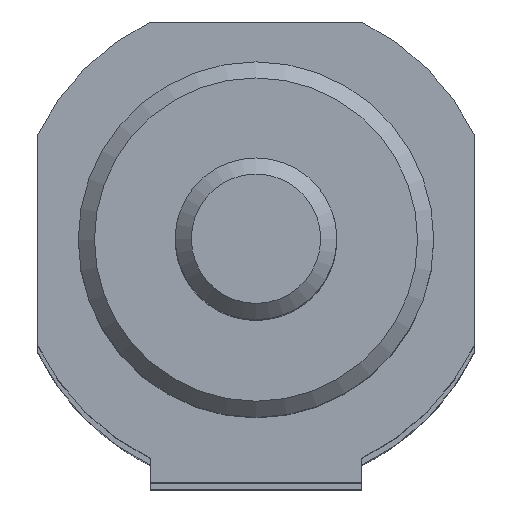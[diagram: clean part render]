
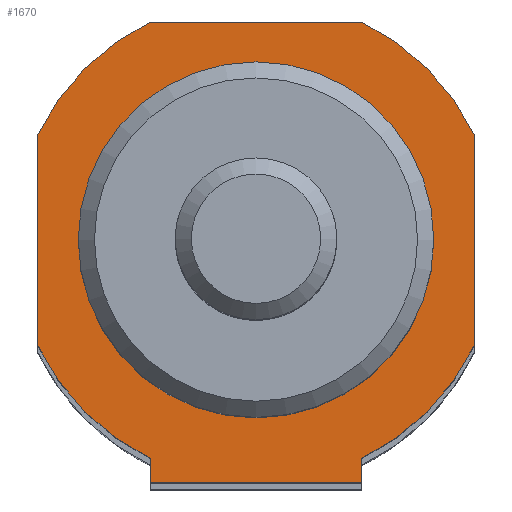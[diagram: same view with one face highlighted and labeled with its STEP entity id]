
A CAD part, top view. The second image highlights one B-rep face of the part: STEP entity #1670.
In plain terms, the highlighted planar face has unit normal (0, 0, 1).
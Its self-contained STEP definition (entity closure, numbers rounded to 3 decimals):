
#101=CARTESIAN_POINT('',(6.538,-15.,286.0));
#102=VERTEX_POINT('',#101);
#103=CARTESIAN_POINT('',(-6.538,-15.,286.0));
#104=VERTEX_POINT('',#103);
#105=CARTESIAN_POINT('',(6.538,-15.,286.0));
#106=DIRECTION('',(-1.0,0.0,0.0));
#107=VECTOR('',#106,13.077);
#108=LINE('',#105,#107);
#109=EDGE_CURVE('',#102,#104,#108,.T.);
#257=CARTESIAN_POINT('',(-6.538,-13.5,286.0));
#258=VERTEX_POINT('',#257);
#272=CARTESIAN_POINT('',(-6.538,-13.5,286.0));
#273=DIRECTION('',(0.0,-1.0,0.0));
#274=VECTOR('',#273,1.5);
#275=LINE('',#272,#274);
#276=EDGE_CURVE('',#258,#104,#275,.T.);
#288=CARTESIAN_POINT('',(6.538,-13.5,286.0));
#289=VERTEX_POINT('',#288);
#296=CARTESIAN_POINT('',(6.538,-13.5,286.0));
#297=DIRECTION('',(0.0,-1.0,0.0));
#298=VECTOR('',#297,1.5);
#299=LINE('',#296,#298);
#300=EDGE_CURVE('',#289,#102,#299,.T.);
#1398=CARTESIAN_POINT('',(11.0,0.,286.0));
#1399=VERTEX_POINT('',#1398);
#1400=CARTESIAN_POINT('',(0.0,0.0,286.0));
#1401=DIRECTION('',(0.0,0.0,-1.0));
#1402=DIRECTION('',(-1.0,0.0,0.0));
#1403=AXIS2_PLACEMENT_3D('',#1400,#1401,#1402);
#1404=CIRCLE('',#1403,11.0);
#1405=EDGE_CURVE('',#1399,#1399,#1404,.T.);
#1490=CARTESIAN_POINT('',(-6.538,13.5,286.0));
#1491=VERTEX_POINT('',#1490);
#1492=CARTESIAN_POINT('',(6.538,13.5,286.0));
#1493=VERTEX_POINT('',#1492);
#1494=CARTESIAN_POINT('',(-6.538,13.5,286.0));
#1495=DIRECTION('',(1.0,0.0,0.0));
#1496=VECTOR('',#1495,13.077);
#1497=LINE('',#1494,#1496);
#1498=EDGE_CURVE('',#1491,#1493,#1497,.T.);
#1521=CARTESIAN_POINT('',(13.5,6.538,286.0));
#1522=VERTEX_POINT('',#1521);
#1523=CARTESIAN_POINT('',(0.,0.,286.0));
#1524=DIRECTION('',(0.,0.,-1.0));
#1525=DIRECTION('',(0.9,0.436,0.));
#1526=AXIS2_PLACEMENT_3D('',#1523,#1524,#1525);
#1527=CIRCLE('',#1526,15.);
#1528=EDGE_CURVE('',#1493,#1522,#1527,.T.);
#1546=CARTESIAN_POINT('',(13.5,-6.538,286.0));
#1547=VERTEX_POINT('',#1546);
#1548=CARTESIAN_POINT('',(13.5,6.538,286.0));
#1549=DIRECTION('',(0.0,-1.0,0.0));
#1550=VECTOR('',#1549,13.077);
#1551=LINE('',#1548,#1550);
#1552=EDGE_CURVE('',#1522,#1547,#1551,.T.);
#1570=CARTESIAN_POINT('',(0.,0.,286.0));
#1571=DIRECTION('',(0.,0.,-1.0));
#1572=DIRECTION('',(0.436,-0.9,0.));
#1573=AXIS2_PLACEMENT_3D('',#1570,#1571,#1572);
#1574=CIRCLE('',#1573,15.);
#1575=EDGE_CURVE('',#1547,#289,#1574,.T.);
#1588=CARTESIAN_POINT('',(-13.5,-6.538,286.0));
#1589=VERTEX_POINT('',#1588);
#1590=CARTESIAN_POINT('',(0.,0.,286.0));
#1591=DIRECTION('',(0.,0.,-1.0));
#1592=DIRECTION('',(-0.9,-0.436,0.));
#1593=AXIS2_PLACEMENT_3D('',#1590,#1591,#1592);
#1594=CIRCLE('',#1593,15.);
#1595=EDGE_CURVE('',#258,#1589,#1594,.T.);
#1613=CARTESIAN_POINT('',(-13.5,6.538,286.0));
#1614=VERTEX_POINT('',#1613);
#1615=CARTESIAN_POINT('',(-13.5,-6.538,286.0));
#1616=DIRECTION('',(0.0,1.0,0.0));
#1617=VECTOR('',#1616,13.077);
#1618=LINE('',#1615,#1617);
#1619=EDGE_CURVE('',#1589,#1614,#1618,.T.);
#1637=CARTESIAN_POINT('',(0.,0.,286.0));
#1638=DIRECTION('',(0.,0.,-1.0));
#1639=DIRECTION('',(-0.436,0.9,0.));
#1640=AXIS2_PLACEMENT_3D('',#1637,#1638,#1639);
#1641=CIRCLE('',#1640,15.);
#1642=EDGE_CURVE('',#1614,#1491,#1641,.T.);
#1650=CARTESIAN_POINT('',(0.,0.0,286.0));
#1651=DIRECTION('',(0.0,0.0,1.0));
#1652=DIRECTION('',(1.0,0.0,0.0));
#1653=AXIS2_PLACEMENT_3D('',#1650,#1651,#1652);
#1654=PLANE('',#1653);
#1655=ORIENTED_EDGE('',*,*,#1498,.F.);
#1656=ORIENTED_EDGE('',*,*,#1642,.F.);
#1657=ORIENTED_EDGE('',*,*,#1619,.F.);
#1658=ORIENTED_EDGE('',*,*,#1595,.F.);
#1659=ORIENTED_EDGE('',*,*,#276,.T.);
#1660=ORIENTED_EDGE('',*,*,#109,.F.);
#1661=ORIENTED_EDGE('',*,*,#300,.F.);
#1662=ORIENTED_EDGE('',*,*,#1575,.F.);
#1663=ORIENTED_EDGE('',*,*,#1552,.F.);
#1664=ORIENTED_EDGE('',*,*,#1528,.F.);
#1665=EDGE_LOOP('',(#1655,#1656,#1657,#1658,#1659,#1660,#1661,#1662,#1663,#1664));
#1666=FACE_OUTER_BOUND('',#1665,.T.);
#1667=ORIENTED_EDGE('',*,*,#1405,.T.);
#1668=EDGE_LOOP('',(#1667));
#1669=FACE_BOUND('',#1668,.T.);
#1670=ADVANCED_FACE('',(#1666,#1669),#1654,.T.);
